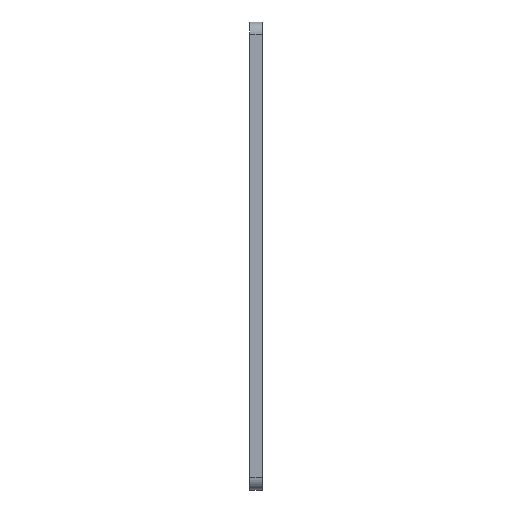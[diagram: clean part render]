
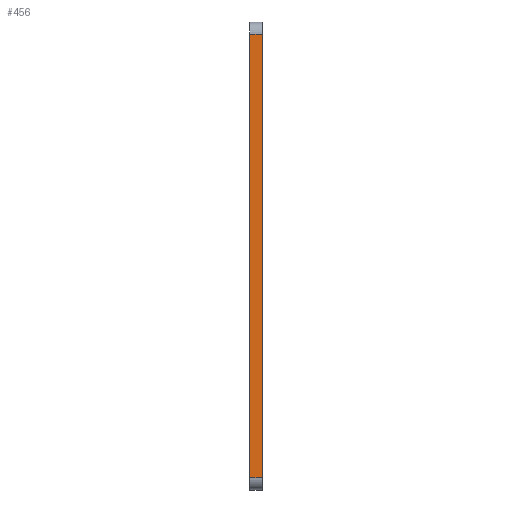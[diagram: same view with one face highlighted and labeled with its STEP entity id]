
A CAD part, left-side view. The second image highlights one B-rep face of the part: STEP entity #456.
In plain terms, the highlighted planar face has unit normal (-1, 0, 0).
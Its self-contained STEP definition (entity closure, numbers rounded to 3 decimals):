
#6 = ORIENTED_EDGE ( 'NONE', *, *, #53, .T. ) ;
#14 = DIRECTION ( 'NONE',  ( -1., 0., 0. ) ) ;
#51 = VERTEX_POINT ( 'NONE', #141 ) ;
#53 = EDGE_CURVE ( 'NONE', #51, #725, #222, .T. ) ;
#96 = VECTOR ( 'NONE', #524, 1000. ) ;
#102 = FACE_OUTER_BOUND ( 'NONE', #304, .T. ) ;
#112 = EDGE_CURVE ( 'NONE', #51, #224, #621, .T. ) ;
#126 = CARTESIAN_POINT ( 'NONE',  ( -18., 3., 95. ) ) ;
#134 = AXIS2_PLACEMENT_3D ( 'NONE', #266, #14, #454 ) ;
#141 = CARTESIAN_POINT ( 'NONE',  ( -18., 3., -15. ) ) ;
#142 = CARTESIAN_POINT ( 'NONE',  ( -18., 0., -15. ) ) ;
#149 = VECTOR ( 'NONE', #209, 1000. ) ;
#169 = VECTOR ( 'NONE', #661, 1000. ) ;
#209 = DIRECTION ( 'NONE',  ( 0., -1., 0. ) ) ;
#222 = LINE ( 'NONE', #761, #149 ) ;
#224 = VERTEX_POINT ( 'NONE', #126 ) ;
#225 = ORIENTED_EDGE ( 'NONE', *, *, #720, .T. ) ;
#265 = LINE ( 'NONE', #704, #96 ) ;
#266 = CARTESIAN_POINT ( 'NONE',  ( -18., 0., -18. ) ) ;
#273 = CARTESIAN_POINT ( 'NONE',  ( -18., 0., 95. ) ) ;
#304 = EDGE_LOOP ( 'NONE', ( #225, #587, #312, #6 ) ) ;
#312 = ORIENTED_EDGE ( 'NONE', *, *, #112, .F. ) ;
#327 = PLANE ( 'NONE',  #134 ) ;
#339 = LINE ( 'NONE', #659, #169 ) ;
#365 = DIRECTION ( 'NONE',  ( 0., 0., 1. ) ) ;
#454 = DIRECTION ( 'NONE',  ( 0., 0., 1. ) ) ;
#456 = ADVANCED_FACE ( 'NONE', ( #102 ), #327, .T. ) ;
#476 = CARTESIAN_POINT ( 'NONE',  ( -18., 3., -18. ) ) ;
#524 = DIRECTION ( 'NONE',  ( 0., 0., 1. ) ) ;
#542 = EDGE_CURVE ( 'NONE', #721, #224, #339, .T. ) ;
#587 = ORIENTED_EDGE ( 'NONE', *, *, #542, .T. ) ;
#621 = LINE ( 'NONE', #476, #750 ) ;
#659 = CARTESIAN_POINT ( 'NONE',  ( -18., 0., 95. ) ) ;
#661 = DIRECTION ( 'NONE',  ( 0., 1., 0. ) ) ;
#704 = CARTESIAN_POINT ( 'NONE',  ( -18., 0., -18. ) ) ;
#720 = EDGE_CURVE ( 'NONE', #725, #721, #265, .T. ) ;
#721 = VERTEX_POINT ( 'NONE', #273 ) ;
#725 = VERTEX_POINT ( 'NONE', #142 ) ;
#750 = VECTOR ( 'NONE', #365, 1000. ) ;
#761 = CARTESIAN_POINT ( 'NONE',  ( -18., 0., -15. ) ) ;
